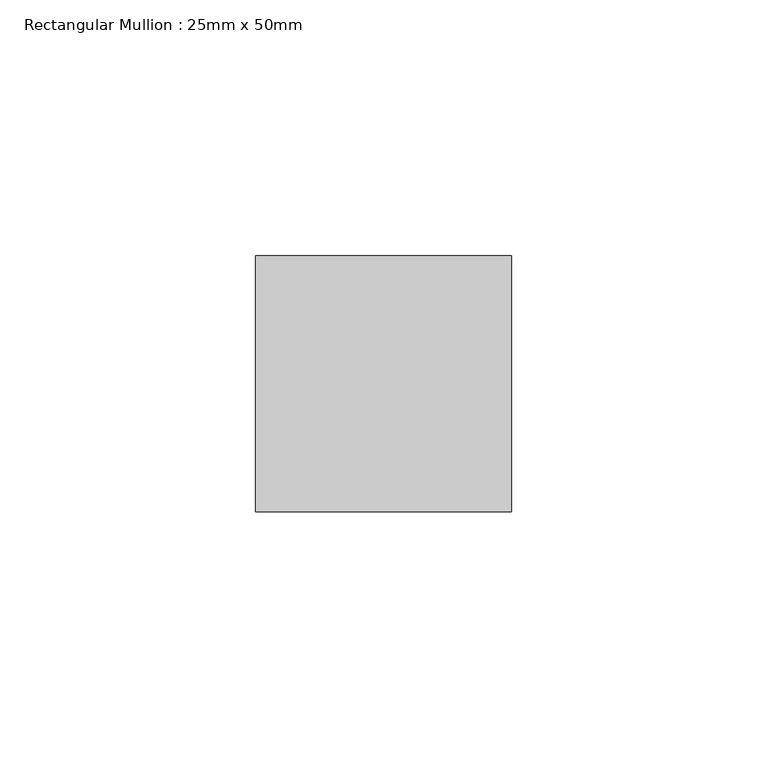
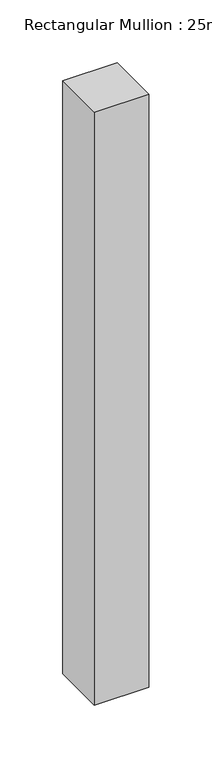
"""IFC4 building model written with IfcOpenShell, lengths in millimetres: member geometry, Rectangular Mullion : 25mm x 50mm."""

from ifc_helpers import new_model, si_unit, frame, origin, place, context, project, spatial, polyline, outline, extrude, source, transform, mapped, element, save


def rectangular_mullion_25mm_x_50mm_958f268c(model_context):
    return source(origin(), model_context, "Body", "SweptSolid", [
        extrude(outline(polyline([(25.0, 25.0), (25.0, -25.0), (-25.0, -25.0), (-25.0, 25.0), (25.0, 25.0)])), frame((0.0, 0.0, -576.0761699), z_axis=(0.0, 0.0, 1.0), x_axis=(1.0, 0.0, 0.0)), (0.0, 0.0, 1.0), 576.0761699),
    ])


if __name__ == "__main__":
    model = new_model("IFC4")
    model_context = context("Model", 3, world=origin())
    ifc_project = project(units=[si_unit("LENGTHUNIT", "METRE", prefix="MILLI")], contexts=[model_context])
    site = spatial("IfcSite", under=ifc_project)
    building = spatial("IfcBuilding", under=site)
    placement = place(None, origin())
    rectangular_mullion_25mm_x_50mm_shape = rectangular_mullion_25mm_x_50mm_958f268c(model_context)
    element("IfcMember", 1, ObjectType="Rectangular Mullion : 25mm x 50mm", at=placement, inside=building, context=model_context, shape_type="MappedRepresentation", body=[
        mapped(rectangular_mullion_25mm_x_50mm_shape, transform((0.0, 0.0, 0.0), x_axis=(1.0, 0.0, 0.0), y_axis=(0.0, 1.0, 0.0), z_axis=(0.0, 0.0, 1.0))),
    ])
    save(model, "model.ifc")
